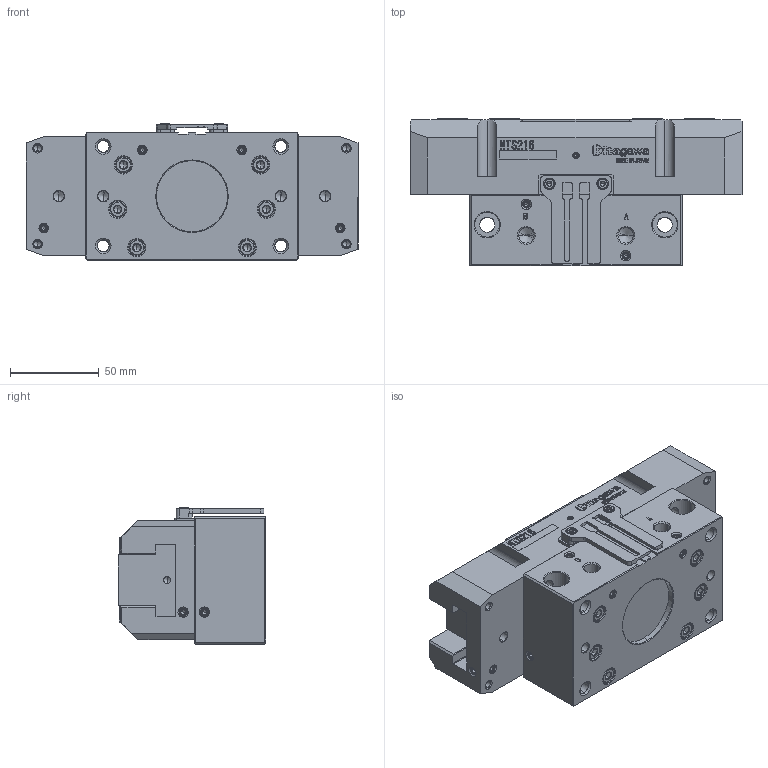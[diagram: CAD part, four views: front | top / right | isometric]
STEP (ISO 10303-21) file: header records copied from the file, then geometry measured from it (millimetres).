
FILE_DESCRIPTION (( 'STEP AP214' ), '1' );
FILE_NAME ('NTS216-OC.STEP', '2025-01-07T06:18:01', ( '' ), ( '' ), 'SwSTEP 2.0', 'SolidWorks 2022', '' );
FILE_SCHEMA (( 'AUTOMOTIVE_DESIGN' ));
Length unit declared in the file: millimetre
Products named in the file (11): BODY^HP-NTS216; COVER^HP-NTS216; BOLT2^HP-NTS216; S-TOME1^HP-NTS216; S-SARA^HP-NTS216; BRACKET^HP-NTS216; S-TOME2^HP-NTS216; BOLT1^HP-NTS216; REAR BODY^HP-NTS216; MASTER JAW^HP-NTS216; NTS216-OC
Assembly tree (29 placements, depth 2):
  NTS216-OC
    REAR BODY^HP-NTS216
    BODY^HP-NTS216
    MASTER JAW^HP-NTS216  x2
    COVER^HP-NTS216
    BRACKET^HP-NTS216
    BOLT1^HP-NTS216  x2
    BOLT2^HP-NTS216  x6
    S-TOME1^HP-NTS216  x10
    S-TOME2^HP-NTS216
    S-SARA^HP-NTS216  x4
Bounding box: 187 x 83 x 76.7 mm (x, y, z)
Volume: 772855.6 mm3; surface area: 151164 mm2
Topology: 29 solids, 29 shells, 2093 faces, 5621 edges, 3602 vertices
Faces by surface type: plane 1343, cone 346, cylinder 288, bspline 116
Entity records: 58683 total; most frequent: CARTESIAN_POINT 16001, ORIENTED_EDGE 9018, DIRECTION 7853, EDGE_CURVE 4509, LINE 3663, VECTOR 3663, VERTEX_POINT 2955, AXIS2_PLACEMENT_3D 2095
